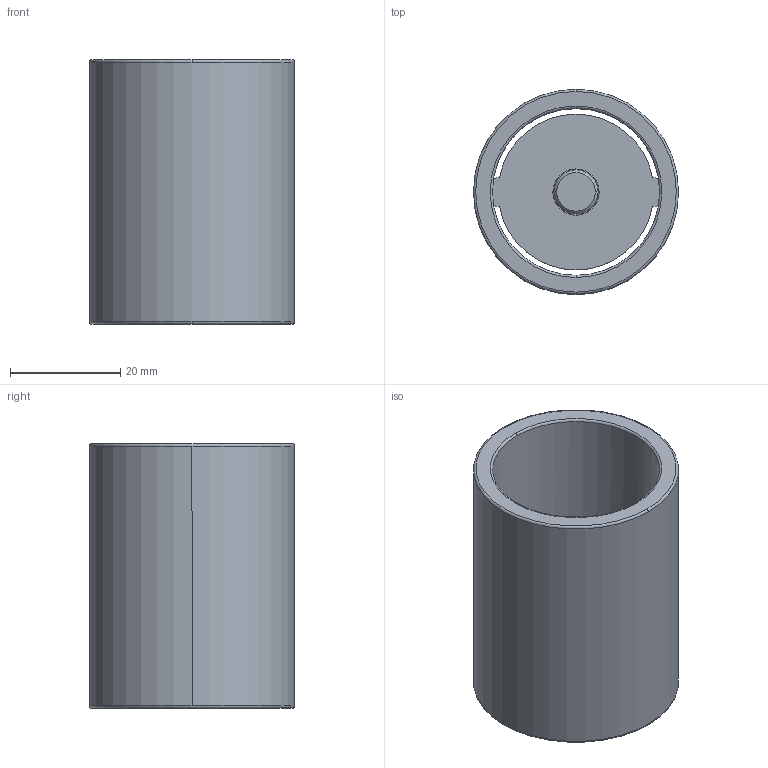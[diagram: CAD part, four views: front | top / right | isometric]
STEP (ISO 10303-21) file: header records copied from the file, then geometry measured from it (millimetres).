
FILE_DESCRIPTION((''),'2;1');
FILE_NAME('C11_030_048.stp','2009-01-12T09:17:06',(''),(''),'Mechanical Desktop 2009','Mechanical Desktop 2009',', , ');
FILE_SCHEMA(('CONFIG_CONTROL_DESIGN'));
Length unit declared in the file: millimetre
Products named in the file (2): Product; blmdl1
Assembly tree (1 placements, depth 2):
  Product
    blmdl1
Bounding box: 37.25 x 37.25 x 48 mm (x, y, z)
Volume: 20306.5 mm3; surface area: 13434.3 mm2
Topology: 3 solids, 3 shells, 44 faces, 110 edges, 74 vertices
Faces by surface type: cylinder 16, plane 16, torus 10, cone 2
Entity records: 1507 total; most frequent: CARTESIAN_POINT 274, DIRECTION 266, ORIENTED_EDGE 220, AXIS2_PLACEMENT_3D 114, EDGE_CURVE 110, VERTEX_POINT 74, CIRCLE 68, EDGE_LOOP 50
